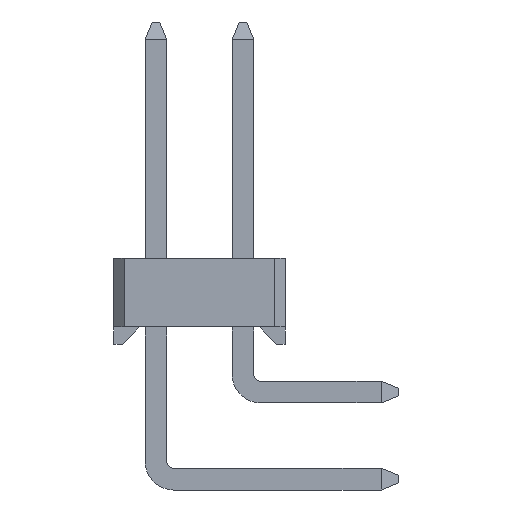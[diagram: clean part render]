
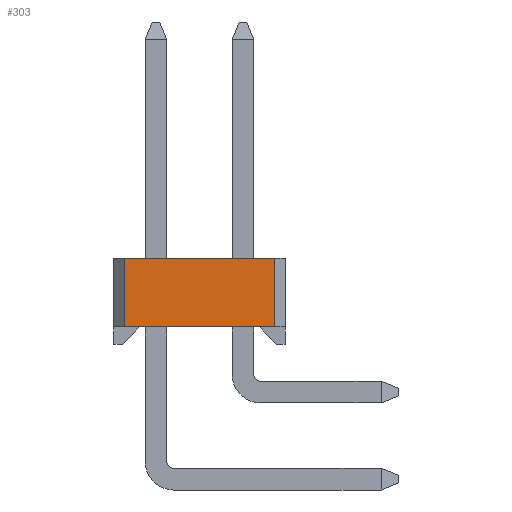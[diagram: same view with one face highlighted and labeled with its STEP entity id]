
A CAD part, left-side view. The second image highlights one B-rep face of the part: STEP entity #303.
In plain terms, the highlighted planar face has unit normal (-1, 0, 0).
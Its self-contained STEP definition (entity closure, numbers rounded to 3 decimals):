
#303=ADVANCED_FACE('',(#2055),#1209,.T.);
#1209=PLANE('',#16596);
#2055=FACE_OUTER_BOUND('',#3021,.T.);
#3021=EDGE_LOOP('',(#4722,#4723,#4724,#4725));
#4722=ORIENTED_EDGE('',*,*,#10673,.F.);
#4723=ORIENTED_EDGE('',*,*,#10439,.T.);
#4724=ORIENTED_EDGE('',*,*,#10674,.T.);
#4725=ORIENTED_EDGE('',*,*,#10571,.T.);
#8939=VERTEX_POINT('',#22812);
#8940=VERTEX_POINT('',#22814);
#9071=VERTEX_POINT('',#23077);
#9072=VERTEX_POINT('',#23079);
#10439=EDGE_CURVE('',#8940,#8939,#12731,.T.);
#10571=EDGE_CURVE('',#9072,#9071,#12863,.T.);
#10673=EDGE_CURVE('',#8940,#9071,#12965,.T.);
#10674=EDGE_CURVE('',#8939,#9072,#12966,.T.);
#12731=LINE('',#22813,#14903);
#12863=LINE('',#23078,#15035);
#12965=LINE('',#23254,#15137);
#12966=LINE('',#23255,#15138);
#14903=VECTOR('',#18156,1.);
#15035=VECTOR('',#18290,1.);
#15137=VECTOR('',#18396,1.);
#15138=VECTOR('',#18397,1.);
#16596=AXIS2_PLACEMENT_3D('',#23256,#18398,#18399);
#18156=DIRECTION('',(0.,-1.,0.));
#18290=DIRECTION('',(0.,1.,0.));
#18396=DIRECTION('',(0.,0.,1.));
#18397=DIRECTION('',(0.,0.,1.));
#18398=DIRECTION('',(-1.,0.,0.));
#18399=DIRECTION('',(0.,0.,1.));
#22812=CARTESIAN_POINT('',(0.,0.3,0.));
#22813=CARTESIAN_POINT('',(0.,2.5,0.));
#22814=CARTESIAN_POINT('',(0.,4.7,0.));
#23077=CARTESIAN_POINT('',(0.,4.7,2.));
#23078=CARTESIAN_POINT('',(0.,2.5,2.));
#23079=CARTESIAN_POINT('',(0.,0.3,2.));
#23254=CARTESIAN_POINT('',(0.,4.7,0.));
#23255=CARTESIAN_POINT('',(0.,0.3,0.));
#23256=CARTESIAN_POINT('',(0.,2.5,0.));
